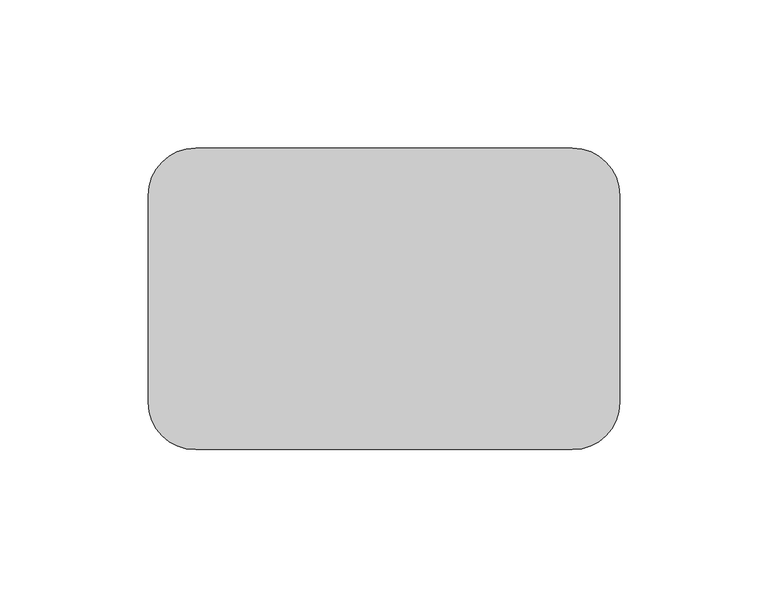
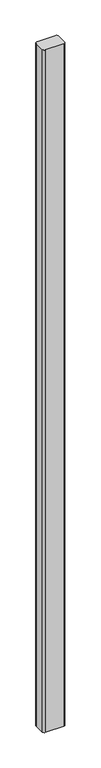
"""IFC4 building model written with IfcOpenShell, lengths in millimetres: proxy geometry, GROUTED CMU CELLS : GROUTED CMU CELLS."""

import ifcopenshell
import ifcopenshell.guid

model = None  # the IFC model being written
_history = None  # IfcOwnerHistory: only IFC2X3 demands one
_inside = {}  # id of a spatial element -> (the spatial element, [elements in it])
_under = {}  # id of a project, library or spatial element -> (it, [spatial elements below it])
_declared = {}  # id of a project -> (the project, [libraries it declares])
_typed = {}  # id of a type object -> (the type object, [elements of that type])
_made_of = {}  # id of a material, layer set ... -> (it, [elements and type objects made of it])


def new_model(schema):
    """Start an empty IFC model of exactly this schema.

    Asked for "IFC4X3", IfcOpenShell would pick the latest addendum, in which some entities
    have other attributes; the version numbers below select the first issue.
    IFC2X3 requires an IfcOwnerHistory on every rooted entity: one is made here for all.
    """
    global model, _history
    if schema == "IFC4X3":
        model = ifcopenshell.file(schema_version=(4, 3, 0, 0))
    else:
        model = ifcopenshell.file(schema=schema)
    _inside.clear()
    _under.clear()
    _declared.clear()
    _typed.clear()
    _made_of.clear()
    _history = None
    if model.schema == "IFC2X3":
        org = make("IfcOrganization", Name="unknown")
        user = make(
            "IfcPersonAndOrganization",
            ThePerson=make("IfcPerson", FamilyName="unknown"),
            TheOrganization=org,
        )
        app = make(
            "IfcApplication",
            ApplicationDeveloper=org,
            Version="unknown",
            ApplicationFullName="unknown",
            ApplicationIdentifier="unknown",
        )
        _history = make(
            "IfcOwnerHistory",
            OwningUser=user,
            OwningApplication=app,
            ChangeAction="ADDED",
            CreationDate=0,
        )
    return model


def make(cls, **values):
    """One entity of the class cls with the attributes given. An attribute that is None is left unset."""
    return model.create_entity(
        cls, **{name: value for name, value in values.items() if value is not None}
    )


def rooted(cls, **values):
    """An entity with a GlobalId (a new one), such as an element, a storey or a relation."""
    return make(cls, GlobalId=ifcopenshell.guid.new(), OwnerHistory=_history, **values)


def si_unit(unit_type, name, prefix=None):
    """IfcSIUnit, for example si_unit("LENGTHUNIT", "METRE", prefix="MILLI")."""
    return make("IfcSIUnit", UnitType=unit_type, Prefix=prefix, Name=name)


def assignment(units):
    """IfcUnitAssignment: the units of a project."""
    return None if units is None else make("IfcUnitAssignment", Units=units)


def point(xyz):
    """IfcCartesianPoint."""
    return None if xyz is None else make("IfcCartesianPoint", Coordinates=xyz)


def direction(xyz):
    """IfcDirection."""
    return None if xyz is None else make("IfcDirection", DirectionRatios=xyz)


def frame(location, z_axis=None, x_axis=None):
    """IfcAxis2Placement3D, a coordinate frame: its origin and axes. An axis left out is left unset."""
    return make(
        "IfcAxis2Placement3D",
        Location=point(location),
        Axis=direction(z_axis),
        RefDirection=direction(x_axis),
    )


def frame_2d(location, x_axis=None):
    """IfcAxis2Placement2D, a coordinate frame in the plane: its origin and x axis."""
    return make(
        "IfcAxis2Placement2D", Location=point(location), RefDirection=direction(x_axis)
    )


def origin():
    """The frame at (0, 0, 0) with its axes left unset."""
    return frame((0.0, 0.0, 0.0))


def origin_with_axes():
    """The frame at (0, 0, 0) with the z axis (0, 0, 1) and the x axis (1, 0, 0) written out."""
    return frame((0.0, 0.0, 0.0), z_axis=(0.0, 0.0, 1.0), x_axis=(1.0, 0.0, 0.0))


def place(relative_to, where):
    """IfcLocalPlacement: puts the frame where relative to a parent placement (None: the world)."""
    return make(
        "IfcLocalPlacement", PlacementRelTo=relative_to, RelativePlacement=where
    )


def context(
    kind, dimensions, precision=None, world=None, true_north=None, identifier=None
):
    """IfcGeometricRepresentationContext, for example the 3D "Model" context."""
    return make(
        "IfcGeometricRepresentationContext",
        ContextIdentifier=identifier,
        ContextType=kind,
        CoordinateSpaceDimension=dimensions,
        Precision=precision,
        WorldCoordinateSystem=world,
        TrueNorth=true_north,
    )


def project(units=None, contexts=None):
    """IfcProject with its units and contexts."""
    return rooted(
        "IfcProject",
        Name="project",
        RepresentationContexts=contexts,
        UnitsInContext=assignment(units),
    )


def spatial(cls, under=None, at=None, **own):
    """A site, building, storey or space (cls), placed at a placement, below another one or the project."""
    s = rooted(cls, ObjectPlacement=at, **own)
    if under is not None:
        _under.setdefault(under.id(), (under, []))[1].append(s)
    return s


def polyline(points):
    """IfcPolyline through the points."""
    return make("IfcPolyline", Points=[point(p) for p in points])


def circle_curve(where, radius):
    """IfcCircle in the frame where."""
    return make("IfcCircle", Position=where, Radius=radius)


def trimmed(basis, trim1, trim2, sense, master):
    """IfcTrimmedCurve: the piece of a basis curve between two trims."""
    return make(
        "IfcTrimmedCurve",
        BasisCurve=basis,
        Trim1=trim1,
        Trim2=trim2,
        SenseAgreement=sense,
        MasterRepresentation=master,
    )


def segment(curve, same_sense, transition):
    """IfcCompositeCurveSegment."""
    return make(
        "IfcCompositeCurveSegment",
        Transition=transition,
        SameSense=same_sense,
        ParentCurve=curve,
    )


def composite_curve(segments, self_intersect=None):
    """IfcCompositeCurve: segments joined end to end."""
    return make("IfcCompositeCurve", Segments=segments, SelfIntersect=self_intersect)


def outline(outer, holes=None, kind="AREA"):
    """IfcArbitraryClosedProfileDef: a profile drawn as a closed curve; with holes, ...WithVoids."""
    if holes is None:
        return make("IfcArbitraryClosedProfileDef", ProfileType=kind, OuterCurve=outer)
    return make(
        "IfcArbitraryProfileDefWithVoids",
        ProfileType=kind,
        OuterCurve=outer,
        InnerCurves=holes,
    )


def extrude(swept, where, along, depth):
    """IfcExtrudedAreaSolid: the profile swept, set in the frame where, extruded along a direction by depth."""
    return make(
        "IfcExtrudedAreaSolid",
        SweptArea=swept,
        Position=where,
        ExtrudedDirection=direction(along),
        Depth=depth,
    )


def shape(context_of_items, identifier, shape_type, items):
    """IfcShapeRepresentation: the items that make up one representation, for example the "Body"."""
    return make(
        "IfcShapeRepresentation",
        ContextOfItems=context_of_items,
        RepresentationIdentifier=identifier,
        RepresentationType=shape_type,
        Items=items,
    )


def source(mapping_origin, context_of_items, identifier, shape_type, items):
    """IfcRepresentationMap: a shape defined once, which mapped items show again and again."""
    return make(
        "IfcRepresentationMap",
        MappingOrigin=mapping_origin,
        MappedRepresentation=shape(context_of_items, identifier, shape_type, items),
    )


def transform(
    local_origin,
    x_axis=None,
    y_axis=None,
    z_axis=None,
    scale=None,
    scale2=None,
    scale3=None,
    uniform=True,
):
    """IfcCartesianTransformationOperator3D, or its non-uniform kind. x_axis, y_axis, z_axis: its Axis1, 2, 3."""
    if uniform:
        return make(
            "IfcCartesianTransformationOperator3D",
            Axis1=direction(x_axis),
            Axis2=direction(y_axis),
            LocalOrigin=point(local_origin),
            Scale=scale,
            Axis3=direction(z_axis),
        )
    return make(
        "IfcCartesianTransformationOperator3DnonUniform",
        Axis1=direction(x_axis),
        Axis2=direction(y_axis),
        LocalOrigin=point(local_origin),
        Scale=scale,
        Axis3=direction(z_axis),
        Scale2=scale2,
        Scale3=scale3,
    )


def mapped(mapping_source, mapping_target):
    """IfcMappedItem: shows the shape of a source again, moved by a transform."""
    return make(
        "IfcMappedItem", MappingSource=mapping_source, MappingTarget=mapping_target
    )


def made_of(thing, what):
    """Note that an element or type object is made of a material, layer set ...; save() writes the relation."""
    if what is not None:
        _made_of.setdefault(what.id(), (what, []))[1].append(thing)
    return thing


def element(
    cls,
    number,
    at=None,
    inside=None,
    cuts=None,
    type_object=None,
    material=None,
    context=None,
    identifier="Body",
    shape_type=None,
    held_by="IfcProductDefinitionShape",
    body=None,
    shapes=None,
    **own,
):
    """One element of the class cls, such as IfcWall. Its Tag is "e" and its number.

    at: its placement. inside: the storey or other place that contains it. cuts: it is an
    opening in that element (IfcRelVoidsElement). A single representation is given by context,
    identifier, shape_type and body (its items); several are given by shapes. held_by: the class
    of the entity that holds the representations. save() writes the other relations.
    """
    e = rooted(cls, Tag="e%d" % number, ObjectPlacement=at, **own)
    if body is not None:
        shapes = [shape(context, identifier, shape_type, body)]
    if shapes is not None:
        e.Representation = make(held_by, Representations=shapes)
    if inside is not None:
        _inside.setdefault(inside.id(), (inside, []))[1].append(e)
    if cuts is not None:
        rooted(
            "IfcRelVoidsElement", RelatingBuildingElement=cuts, RelatedOpeningElement=e
        )
    if type_object is not None:
        _typed.setdefault(type_object.id(), (type_object, []))[1].append(e)
    return made_of(e, material)


def aggregate(whole, parts):
    """IfcRelAggregates: a whole, such as a stair, and the parts it consists of."""
    return rooted("IfcRelAggregates", RelatingObject=whole, RelatedObjects=parts)


def save(model, path):
    """Write the relations noted so far, then the file.

    IfcRelAggregates (storeys below a building ...), IfcRelContainedInSpatialStructure (elements
    in a storey), IfcRelDefinesByType, IfcRelAssociatesMaterial and IfcRelDeclares: one each for
    every whole, place, type object, material and project.
    """
    for whole, parts in _under.values():
        aggregate(whole, parts)
    for where, things in _inside.values():
        rooted(
            "IfcRelContainedInSpatialStructure",
            RelatedElements=things,
            RelatingStructure=where,
        )
    for kind, things in _typed.values():
        rooted("IfcRelDefinesByType", RelatedObjects=things, RelatingType=kind)
    for what, things in _made_of.values():
        rooted("IfcRelAssociatesMaterial", RelatedObjects=things, RelatingMaterial=what)
    for by, libraries in _declared.values():
        rooted("IfcRelDeclares", RelatingContext=by, RelatedDefinitions=libraries)
    model.write(path)


def generic_models_4f4d1f58(model_context):
    return source(origin(), model_context, "Body", "SweptSolid", [
        extrude(outline(composite_curve([segment(trimmed(circle_curve(frame_2d((63.5, 34.925)), 15.875), [point((63.5, 50.8))], [point((79.375, 34.925))], False, "CARTESIAN"), True, "CONTINUOUS"), segment(polyline([(79.375, 34.925), (79.375, -34.925)]), True, "CONTINUOUS"), segment(trimmed(circle_curve(frame_2d((63.5, -34.925)), 15.875), [point((79.375, -34.925))], [point((63.5, -50.8))], False, "CARTESIAN"), True, "CONTINUOUS"), segment(polyline([(63.5, -50.8), (-63.5, -50.8)]), True, "CONTINUOUS"), segment(trimmed(circle_curve(frame_2d((-63.5, -34.925)), 15.875), [point((-63.5, -50.8))], [point((-79.375, -34.925))], False, "CARTESIAN"), True, "CONTINUOUS"), segment(polyline([(-79.375, -34.925), (-79.375, 34.925)]), True, "CONTINUOUS"), segment(trimmed(circle_curve(frame_2d((-63.5, 34.925)), 15.875), [point((-79.375, 34.925))], [point((-63.5, 50.8))], False, "CARTESIAN"), True, "CONTINUOUS"), segment(polyline([(-63.5, 50.8), (63.5, 50.8)]), True, "CONTINUOUS")], self_intersect=False)), origin_with_axes(), (0.0, 0.0, 1.0), 5080.0),
    ])


if __name__ == "__main__":
    model = new_model("IFC4")
    model_context = context("Model", 3, world=origin())
    ifc_project = project(units=[si_unit("LENGTHUNIT", "METRE", prefix="MILLI")], contexts=[model_context])
    site = spatial("IfcSite", under=ifc_project)
    building = spatial("IfcBuilding", under=site)
    placement = place(None, origin())
    generic_models_shape = generic_models_4f4d1f58(model_context)
    element("IfcBuildingElementProxy", 1, Name="GROUTED CMU CELLS : GROUTED CMU CELLS", ObjectType="GROUTED CMU CELLS : GROUTED CMU CELLS", at=placement, inside=building, context=model_context, shape_type="MappedRepresentation", body=[
        mapped(generic_models_shape, transform((0.0, 0.0, 0.0), x_axis=(1.0, 0.0, 0.0), y_axis=(0.0, 1.0, 0.0), z_axis=(0.0, 0.0, 1.0))),
    ])
    save(model, "model.ifc")
